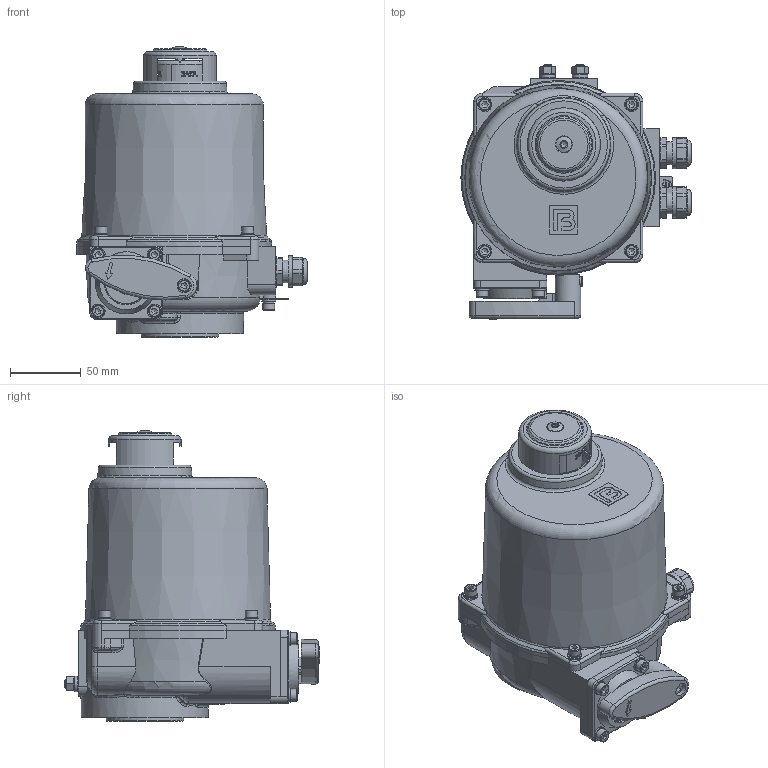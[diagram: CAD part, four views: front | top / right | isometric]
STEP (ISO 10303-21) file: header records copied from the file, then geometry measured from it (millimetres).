
FILE_DESCRIPTION(('STEP AP242'), '1');
FILE_NAME('8100', '', ('UNSPECIFIED'), ('UNSPECIFIED'), 'C3D Converter', 'C3D Toolkit', '');
FILE_SCHEMA(('AP242_MANAGED_MODEL_BASED_3D_ENGINEERING_MIM_LF { 1 0 10303 442 1 1 4 }'));
Length unit declared in the file: millimetre
Products named in the file (1): ГЗ-ОФ (К)
Bounding box: 163.2 x 181.09 x 205.87 mm (x, y, z)
Volume: 6891.4 mm3; surface area: 288583.2 mm2
Topology: 1 solids, 34 shells, 2341 faces, 6951 edges, 4574 vertices
Faces by surface type: plane 1003, cylinder 808, cone 202, bspline 179, torus 143, sphere 6
Full cylindrical faces by diameter (mm): 2 x3, 3.242 x1, 3.545 x1, 4 x6, 4.134 x12, 4.2 x3, 4.3 x1, 4.5 x1, 4.917 x1, 5 x13, 5.3 x9, 5.459 x1, 5.5 x5, 6 x9, 6.2 x1, 6.647 x8, 6.8 x2, 7 x4, 7.35 x1, 8 x4, 8.2 x2, 8.5 x10, 8.75 x1, 9 x2, 9.6 x1, 10 x15, 10.5 x1, 11 x2, 11.3 x1, 12 x3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
Entity records: 153446 total; most frequent: CARTESIAN_POINT 73565, ORIENTED_EDGE 12975, DIRECTION 12567, EDGE_CURVE 6515, AXIS2_PLACEMENT_3D 5143, VERTEX_POINT 4504, CIRCLE 2980, EDGE_LOOP 2960
